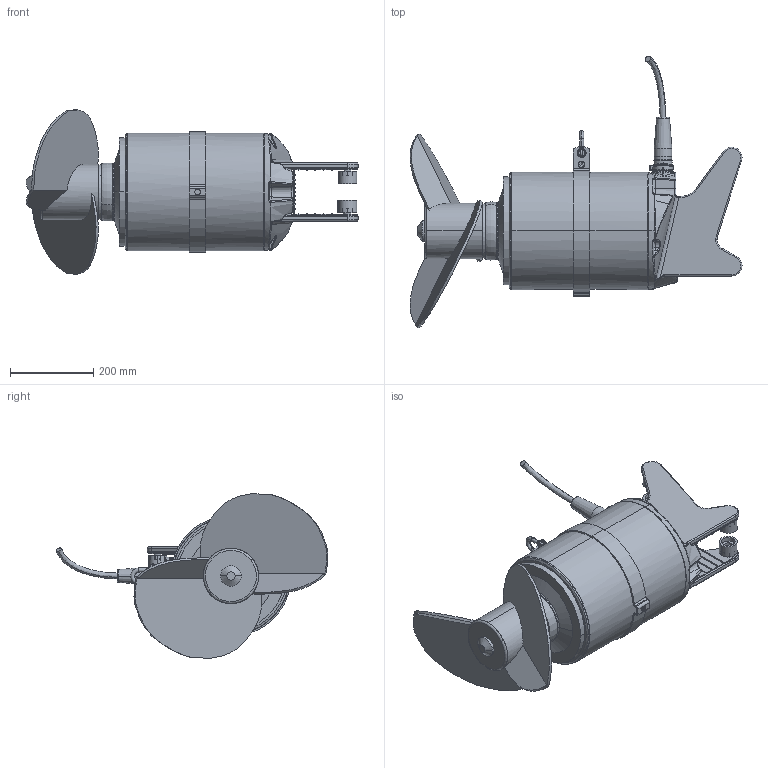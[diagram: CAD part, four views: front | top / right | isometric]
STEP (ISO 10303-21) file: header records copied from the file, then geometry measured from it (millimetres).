
FILE_DESCRIPTION (( 'STEP AP214' ), '1' );
FILE_NAME ('XRW480_MSD.STEP', '2017-07-04T09:03:08', ( '' ), ( '' ), 'SwSTEP 2.0', 'SolidWorks 2017', '' );
FILE_SCHEMA (( 'AUTOMOTIVE_DESIGN' ));
Length unit declared in the file: millimetre
Products named in the file (1): XRW480_MSD
Bounding box: 798.89 x 654 x 396.2 mm (x, y, z)
Volume: 30053217.5 mm3; surface area: 1172896.1 mm2
Topology: 1 solids, 1 shells, 1481 faces, 3607 edges, 2198 vertices
Faces by surface type: plane 447, cylinder 353, torus 275, bspline 224, cone 156, sphere 26
Entity records: 59585 total; most frequent: CARTESIAN_POINT 26372, ORIENTED_EDGE 7170, DIRECTION 6702, EDGE_CURVE 3585, AXIS2_PLACEMENT_3D 2736, VERTEX_POINT 2198, EDGE_LOOP 1595, ADVANCED_FACE 1481
